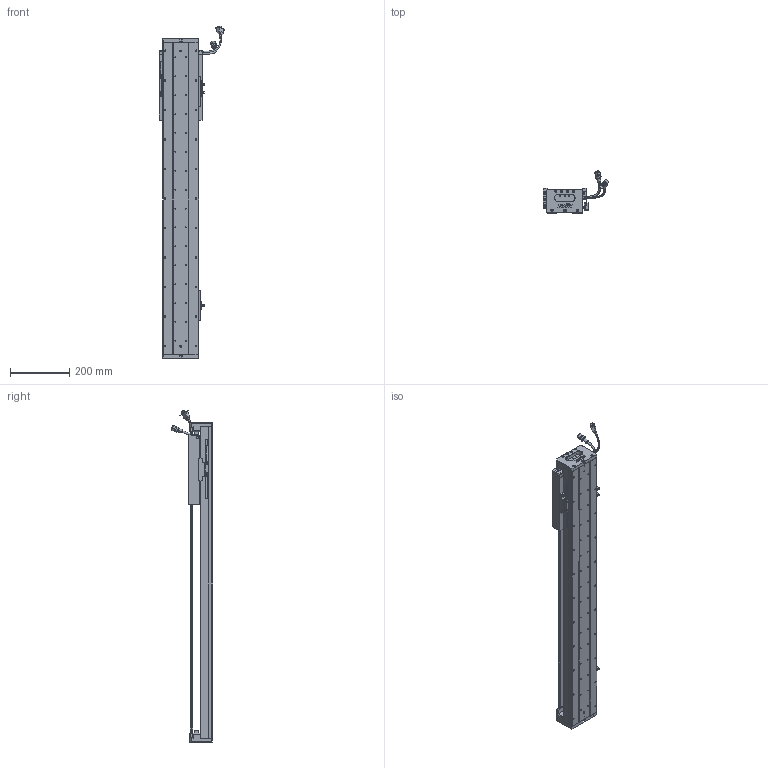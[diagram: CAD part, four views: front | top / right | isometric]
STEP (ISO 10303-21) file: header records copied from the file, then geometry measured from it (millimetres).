
FILE_DESCRIPTION (( 'STEP AP203' ), '1' );
FILE_NAME ('Z3-RY120D-1-L500-B-K.SLDASM_0750.step', '2021-05-17T05:46:26', ( '盈信电脑' ), ( '东莞市道滘镇水果街19号' ), 'SwSTEP 2.0', 'SolidWorks 2016', '' );
FILE_SCHEMA (( 'CONFIG_CONTROL_DESIGN' ));
Length unit declared in the file: millimetre
Products named in the file (37): COVER; Z3-RY120-500-倰第菁釱_0750; SCREW-M1.6; LABEL-Part-1; 覜茼ん672; PSLH080_PSLF2; Z-RY120D詩湍奻揤裔; 140雄赽晤鎢ん堤盄; 榋妏寠巭燃_暯_M2_2; SCALE-Part-1; Z3-RY120D-1-L500-B-K.SLDASM_0750; LABEL; RY100FB-遵嫖萇覜茼え; HOLDER0; 120-Z-臏賑輸盄裔(21遴); HARNESS; Z3-RY120铝滑块（21款）; SCREW-M1.6-1; SHIELDPLATE; SEAL-Part-1; SCALE; SCREW-M1.7-1; SCREW-M1.6-2; 080黍杅芛假蚾釱21遴; COVER-Part-1; SCREW-M1.6-3; HARNESS-Part-2; Z-120詩湍傷裔啣; 140蚥薯蝶輸; HARNESS-Part-1; Z3-RY120-L500詩湍100mm遵_0750; SEAL; Z-RY120D詩湍狟揤裔; PBU_SHEET; SCALE-Part-2; 672嫖萇羲壽假蚾釱; SCREW-M1.7
Assembly tree (43 placements, depth 4):
  Z3-RY120D-1-L500-B-K.SLDASM_0750
    Z3-RY120-500-倰第菁釱_0750
    覜茼ん672  x3
    672嫖萇羲壽假蚾釱  x2
    Z3-RY120铝滑块（21款）
    PSLH080_PSLF2
      SCALE
        SCALE-Part-1
        SCALE-Part-2
      HARNESS
        HARNESS-Part-1
        HARNESS-Part-2
      LABEL
        LABEL-Part-1
      COVER
        COVER-Part-1
      SEAL
        SEAL-Part-1
      榋妏寠巭燃_暯_M2_2
      SHIELDPLATE
      SCREW-M1.7
      SCREW-M1.7-1
      PBU_SHEET
      SCREW-M1.6
      SCREW-M1.6-1
      SCREW-M1.6-2
      SCREW-M1.6-3
      HOLDER0
    080黍杅芛假蚾釱21遴
    120-Z-臏賑輸盄裔(21遴)
    140雄赽晤鎢ん堤盄
    140蚥薯蝶輸  x2
    RY100FB-遵嫖萇覜茼え
    Z-120詩湍傷裔啣  x2
    Z-RY120D詩湍奻揤裔  x2
    Z-RY120D詩湍狟揤裔  x2
    Z3-RY120-L500詩湍100mm遵_0750
Bounding box: 222.87 x 140.94 x 1124 mm (x, y, z)
Volume: 3165478.7 mm3; surface area: 1053035.6 mm2
Topology: 38 solids, 38 shells, 2849 faces, 7721 edges, 4876 vertices
Faces by surface type: cylinder 1317, plane 1128, cone 282, torus 69, bspline 53
Entity records: 86202 total; most frequent: CARTESIAN_POINT 23255, ORIENTED_EDGE 12402, DIRECTION 12127, EDGE_CURVE 6201, AXIS2_PLACEMENT_3D 4438, VERTEX_POINT 3996, VECTOR 3251, LINE 3251
